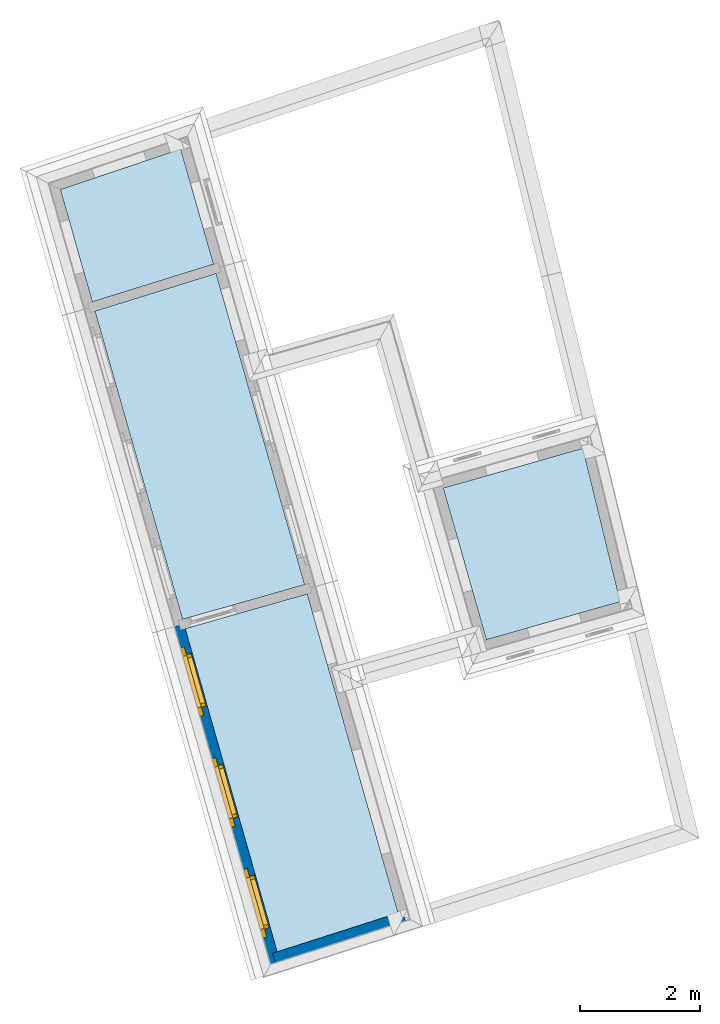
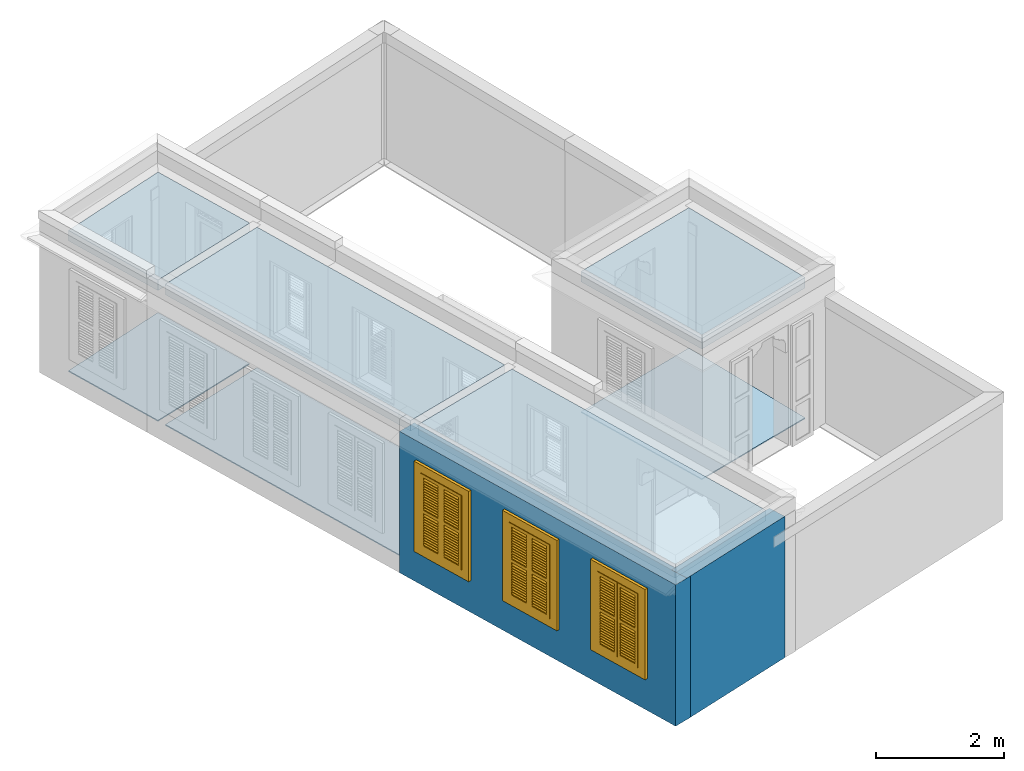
# One storey, part 1 of 13: 7 slabs, 3 windows, 2 walls, 3 openings.
"""IFC4 building model written with IfcOpenShell, lengths in metres."""

from ifc_helpers import new_model, si_unit, frame, origin, origin_with_axes, place, context, subcontext, project, spatial, polyline, outline, extrude, faceted_brep, source, transform, mapped, material, layer, layer_set, layer_usage, type_object, type_shapes, element, fill, save


model = new_model("IFC4")

# Units and contexts
model_context = context("Model", 3, world=origin_with_axes())
body_context = subcontext(model_context, "Body", "Model", "MODEL_VIEW")
ifc_project = project(units=[si_unit("PLANEANGLEUNIT", "RADIAN"), si_unit("MASSUNIT", "GRAM", prefix="KILO"), si_unit("FORCEUNIT", "NEWTON", prefix="KILO"), si_unit("LENGTHUNIT", "METRE"), si_unit("AREAUNIT", "SQUARE_METRE"), si_unit("VOLUMEUNIT", "CUBIC_METRE")], contexts=[model_context, model_context])

# Site, building, storey
site_placement = place(None, origin_with_axes())
site = spatial("IfcSite", under=ifc_project, at=site_placement, Name="Site plot-3", CompositionType="ELEMENT")
building_placement = place(None, origin_with_axes())
building = spatial("IfcBuilding", under=site, at=building_placement, Name="Building plot-3", CompositionType="ELEMENT")
storey_placement = place(None, frame((0.0, 0.0, 3.3), z_axis=(0.0, 0.0, 1.0), x_axis=(1.0, 0.0, 0.0)))
storey = spatial("IfcBuildingStorey", under=building, at=storey_placement, Name="plot-3 1", CompositionType="ELEMENT", Elevation=3.3)

# Slabs
slab_1_placement = place(storey_placement, frame((13.3471508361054, 23.01554423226, 2.5)))
element("IfcSlab", 1, at=slab_1_placement, inside=storey, Name="My Slab", ObjectType="Slab", PredefinedType="FLOOR", context=body_context, shape_type="SweptSolid", body=[
    extrude(outline(polyline([(0.0, 0.0), (0.719861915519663, -2.53061600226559), (2.95270921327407, -1.89545771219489), (2.32973398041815, 0.662718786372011), (0.0, 0.0)])), origin_with_axes(), (0.0, 0.0, 1.0), 0.2),
])
slab_2_placement = place(storey_placement, frame((13.3471508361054, 23.01554423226, 0.0)))
element("IfcSlab", 2, at=slab_2_placement, inside=storey, Name="My Slab", ObjectType="Slab", PredefinedType="FLOOR", context=body_context, shape_type="SweptSolid", body=[
    extrude(outline(polyline([(0.0, 0.0), (0.719861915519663, -2.53061600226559), (2.95270921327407, -1.89545771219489), (2.32973398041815, 0.662718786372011), (0.0, 0.0)])), origin_with_axes(), (0.0, 0.0, 1.0), 0.02),
])
slab_3_placement = place(storey_placement, frame((11.0807647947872, 21.2501145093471, 2.5)))
element("IfcSlab", 3, at=slab_3_placement, inside=storey, Name="My Slab", ObjectType="Slab", PredefinedType="FLOOR", context=body_context, shape_type="SweptSolid", body=[
    extrude(outline(polyline([(0.0, 0.0), (-2.03603314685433, -0.579172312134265), (-0.502932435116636, -5.96866314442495), (1.51385893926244, -5.32184794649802), (0.0, 0.0)])), origin_with_axes(), (0.0, 0.0, 1.0), 0.2),
])
slab_4_placement = place(storey_placement, frame((11.0369877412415, 21.4040091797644, 2.5)))
element("IfcSlab", 4, at=slab_4_placement, inside=storey, Name="My Slab", ObjectType="Slab", PredefinedType="FLOOR", context=body_context, shape_type="SweptSolid", body=[
    extrude(outline(polyline([(0.0, 0.0), (-1.47663815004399, 5.19100128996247), (-3.49840877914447, 4.56169025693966), (-2.03603314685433, -0.579172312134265), (0.0, 0.0)])), origin_with_axes(), (0.0, 0.0, 1.0), 0.2),
])
slab_5_placement = place(storey_placement, frame((11.0369877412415, 21.4040091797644, 0.0)))
element("IfcSlab", 5, at=slab_5_placement, inside=storey, Name="My Slab", ObjectType="Slab", PredefinedType="FLOOR", context=body_context, shape_type="SweptSolid", body=[
    extrude(outline(polyline([(0.0, 0.0), (-1.47663815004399, 5.19100128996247), (-3.49840877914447, 4.56169025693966), (-2.03603314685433, -0.579172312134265), (0.0, 0.0)])), origin_with_axes(), (0.0, 0.0, 1.0), 0.02),
])
slab_6_placement = place(storey_placement, frame((9.51655926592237, 26.7489517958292, 2.5)))
element("IfcSlab", 6, at=slab_6_placement, inside=storey, Name="My Slab", ObjectType="Slab", PredefinedType="FLOOR", context=body_context, shape_type="SweptSolid", body=[
    extrude(outline(polyline([(0.0, 0.0), (-0.546690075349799, 1.92184448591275), (-2.55488815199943, 1.24482024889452), (-2.02177062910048, -0.629311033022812), (0.0, 0.0)])), origin_with_axes(), (0.0, 0.0, 1.0), 0.2),
])
slab_7_placement = place(storey_placement, frame((9.51655926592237, 26.7489517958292, 0.0)))
element("IfcSlab", 7, at=slab_7_placement, inside=storey, Name="My Slab", ObjectType="Slab", PredefinedType="FLOOR", context=body_context, shape_type="SweptSolid", body=[
    extrude(outline(polyline([(0.0, 0.0), (-0.546690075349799, 1.92184448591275), (-2.55488815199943, 1.24482024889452), (-2.02177062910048, -0.629311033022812), (0.0, 0.0)])), origin_with_axes(), (0.0, 0.0, 1.0), 0.02),
])

# Wall, openings, windows
ifc_material_1 = material(Name="Masonry")
ifc_layer_1 = layer(ifc_material_1, 0.33, ventilated=False)
ifc_layer_set_1 = layer_set([ifc_layer_1], Name="exterior_0.08_0.25")
ifc_layer_usage_1 = layer_usage(ifc_layer_set_1, "AXIS2", "POSITIVE", -0.25)
wall_type_1 = type_object("IfcWallType", Name="exterior_0.08_0.25", PredefinedType="SOLIDWALL", material=ifc_layer_set_1)
wall_1_placement = place(storey_placement, frame((8.94589578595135, 20.7260010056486, 0.0), z_axis=(0.0, 0.0, 1.0), x_axis=(0.273606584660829, -0.96184169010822, 0.0)))
wall_1 = element("IfcWall", 8, at=wall_1_placement, inside=storey, type_object=wall_type_1, material=ifc_layer_usage_1, Name="exterior", context=body_context, shape_type="SweptSolid", body=[
    extrude(outline(polyline([(4.48987797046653e-16, 0.0800000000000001), (-9.34102674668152e-16, -0.25), (6.01600538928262, -0.250000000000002), (6.01600538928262, 0.0799999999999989), (4.48987797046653e-16, 0.0800000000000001)])), origin_with_axes(), (0.0, 0.0, 1.0), 2.7),
])
opening_1_placement = place(wall_1_placement, frame((0.506000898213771, 0.0, 0.75)))
opening_1 = element("IfcOpeningElement", 9, at=opening_1_placement, cuts=wall_1, Name="My Opening", ObjectType="Opening", context=body_context, shape_type="SweptSolid", body=[
    extrude(outline(polyline([(0.0, -0.270000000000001), (0.909999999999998, -0.269999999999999), (0.909999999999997, 1.1), (-3.33066907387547e-16, 1.1), (0.0, -0.270000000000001)])), origin_with_axes(), (0.0, 0.0, 1.0), 1.445),
])
opening_2_placement = place(wall_1_placement, frame((2.42800269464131, 0.0, 0.75)))
opening_2 = element("IfcOpeningElement", 10, at=opening_2_placement, cuts=wall_1, Name="My Opening", ObjectType="Opening", context=body_context, shape_type="SweptSolid", body=[
    extrude(outline(polyline([(0.0, -0.270000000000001), (0.910000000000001, -0.270000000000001), (0.91, 1.1), (-4.44089209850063e-16, 1.1), (0.0, -0.270000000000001)])), origin_with_axes(), (0.0, 0.0, 1.0), 1.445),
])
opening_3_placement = place(wall_1_placement, frame((4.35000449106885, 0.0, 0.75)))
opening_3 = element("IfcOpeningElement", 11, at=opening_3_placement, cuts=wall_1, Name="My Opening", ObjectType="Opening", context=body_context, shape_type="SweptSolid", body=[
    extrude(outline(polyline([(0.0, -0.270000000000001), (0.910000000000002, -0.270000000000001), (0.91, 1.1), (0.0, 1.1), (0.0, -0.270000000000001)])), origin_with_axes(), (0.0, 0.0, 1.0), 1.445),
])
window_type = type_object("IfcWindowType", Name="shuttered_shorter", PartitioningType="DOUBLE_PANEL_HORIZONTAL", PredefinedType="NOTDEFINED")
shared_shape = source(origin(), body_context, "Body", "Brep", [
    faceted_brep([(0.393, 0.0, 0.622), (0.074, 0.0, 0.622), (0.074, 0.0, 0.632), (0.393, 0.0, 0.632), (0.074, -0.04, 0.592), (0.393, -0.04, 0.592), (0.393, -0.04, 0.582), (0.074, -0.04, 0.582), (0.517, 0.0, 0.682), (0.836, 0.0, 0.682), (0.836, 0.0, 0.672), (0.517, 0.0, 0.672), (0.517, -0.04, 0.642), (0.836, -0.04, 0.642), (0.836, -0.04, 0.632), (0.517, -0.04, 0.632), (0.517, 0.0, 0.632), (0.836, 0.0, 0.632), (0.836, 0.0, 0.622), (0.517, 0.0, 0.622), (0.517, -0.04, 0.592), (0.836, -0.04, 0.592), (0.836, -0.04, 0.582), (0.517, -0.04, 0.582), (0.517, 0.0, 0.232), (0.836, 0.0, 0.232), (0.836, 0.0, 0.222), (0.517, 0.0, 0.222), (0.517, -0.04, 0.192), (0.836, -0.04, 0.192), (0.836, -0.04, 0.182), (0.517, -0.04, 0.182), (0.517, 0.0, 0.532), (0.836, 0.0, 0.532), (0.836, 0.0, 0.522), (0.517, 0.0, 0.522), (0.517, -0.04, 0.492), (0.836, -0.04, 0.492), (0.836, -0.04, 0.482), (0.517, -0.04, 0.482), (0.517, 0.0, 0.482), (0.836, 0.0, 0.482), (0.836, 0.0, 0.472), (0.517, 0.0, 0.472), (0.517, -0.04, 0.442), (0.836, -0.04, 0.442), (0.836, -0.04, 0.432), (0.517, -0.04, 0.432), (0.517, 0.0, 0.582), (0.836, 0.0, 0.582), (0.836, 0.0, 0.572), (0.517, 0.0, 0.572), (0.517, -0.04, 0.542), (0.836, -0.04, 0.542), (0.836, -0.04, 0.532), (0.517, -0.04, 0.532), (0.517, 0.0, 0.182), (0.836, 0.0, 0.182), (0.836, 0.0, 0.172), (0.517, 0.0, 0.172), (0.517, -0.04, 0.142), (0.836, -0.04, 0.142), (0.836, -0.04, 0.132), (0.517, -0.04, 0.132), (0.517, 0.0, 0.382), (0.836, 0.0, 0.382), (0.836, 0.0, 0.372), (0.517, 0.0, 0.372), (0.517, -0.04, 0.342), (0.836, -0.04, 0.342), (0.836, -0.04, 0.332), (0.517, -0.04, 0.332), (0.517, 0.0, 0.432), (0.836, 0.0, 0.432), (0.836, 0.0, 0.422), (0.517, 0.0, 0.422), (0.517, -0.04, 0.392), (0.836, -0.04, 0.392), (0.836, -0.04, 0.382), (0.517, -0.04, 0.382), (0.517, 0.0, 0.132), (0.836, 0.0, 0.132), (0.836, 0.0, 0.122), (0.517, 0.0, 0.122), (0.517, -0.04, 0.092), (0.836, -0.04, 0.092), (0.836, -0.04, 0.082), (0.517, -0.04, 0.082), (0.517, 0.0, 0.282), (0.836, 0.0, 0.282), (0.836, 0.0, 0.272), (0.517, 0.0, 0.272), (0.517, -0.04, 0.242), (0.836, -0.04, 0.242), (0.836, -0.04, 0.232), (0.517, -0.04, 0.232), (0.517, 0.0, 0.332), (0.836, 0.0, 0.332), (0.836, 0.0, 0.322), (0.517, 0.0, 0.322), (0.517, -0.04, 0.292), (0.836, -0.04, 0.292), (0.836, -0.04, 0.282), (0.517, -0.04, 0.282), (0.517, 0.0, 1.362667), (0.836, 0.0, 1.362667), (0.836, 0.0, 1.352667), (0.517, 0.0, 1.352667), (0.517, -0.04, 1.322667), (0.836, -0.04, 1.322667), (0.836, -0.04, 1.312667), (0.517, -0.04, 1.312667), (0.517, 0.0, 1.312667), (0.836, 0.0, 1.312667), (0.836, 0.0, 1.302667), (0.517, 0.0, 1.302667), (0.517, -0.04, 1.272667), (0.836, -0.04, 1.272667), (0.836, -0.04, 1.262667), (0.517, -0.04, 1.262667), (0.517, 0.0, 0.912667), (0.836, 0.0, 0.912667), (0.836, 0.0, 0.902667), (0.517, 0.0, 0.902667), (0.517, -0.04, 0.872667), (0.836, -0.04, 0.872667), (0.836, -0.04, 0.862667), (0.517, -0.04, 0.862667), (0.517, 0.0, 1.212667), (0.836, 0.0, 1.212667), (0.836, 0.0, 1.202667), (0.517, 0.0, 1.202667), (0.517, -0.04, 1.172667), (0.836, -0.04, 1.172667), (0.836, -0.04, 1.162667), (0.517, -0.04, 1.162667), (0.517, 0.0, 1.162667), (0.836, 0.0, 1.162667), (0.836, 0.0, 1.152667), (0.517, 0.0, 1.152667), (0.517, -0.04, 1.122667), (0.836, -0.04, 1.122667), (0.836, -0.04, 1.112667), (0.517, -0.04, 1.112667), (0.517, 0.0, 1.262667), (0.836, 0.0, 1.262667), (0.836, 0.0, 1.252667), (0.517, 0.0, 1.252667), (0.517, -0.04, 1.222667), (0.836, -0.04, 1.222667), (0.836, -0.04, 1.212667), (0.517, -0.04, 1.212667), (0.517, 0.0, 0.862667), (0.836, 0.0, 0.862667), (0.836, 0.0, 0.852667), (0.517, 0.0, 0.852667), (0.517, -0.04, 0.822667), (0.836, -0.04, 0.822667), (0.836, -0.04, 0.812667), (0.517, -0.04, 0.812667), (0.517, 0.0, 1.062667), (0.836, 0.0, 1.062667), (0.836, 0.0, 1.052667), (0.517, 0.0, 1.052667), (0.517, -0.04, 1.022667), (0.836, -0.04, 1.022667), (0.836, -0.04, 1.012667), (0.517, -0.04, 1.012667), (0.517, 0.0, 1.112667), (0.836, 0.0, 1.112667), (0.836, 0.0, 1.102667), (0.517, 0.0, 1.102667), (0.517, -0.04, 1.072667), (0.836, -0.04, 1.072667), (0.836, -0.04, 1.062667), (0.517, -0.04, 1.062667), (0.517, 0.0, 0.812667), (0.836, 0.0, 0.812667), (0.836, 0.0, 0.802667), (0.517, 0.0, 0.802667), (0.517, -0.04, 0.772667), (0.836, -0.04, 0.772667), (0.836, -0.04, 0.762667), (0.517, -0.04, 0.762667), (0.517, 0.0, 0.962667), (0.836, 0.0, 0.962667), (0.836, 0.0, 0.952667), (0.517, 0.0, 0.952667), (0.517, -0.04, 0.922667), (0.836, -0.04, 0.922667), (0.836, -0.04, 0.912667), (0.517, -0.04, 0.912667), (0.517, 0.0, 1.012667), (0.836, 0.0, 1.012667), (0.836, 0.0, 1.002667), (0.517, 0.0, 1.002667), (0.517, -0.04, 0.972667), (0.836, -0.04, 0.972667), (0.836, -0.04, 0.962667), (0.517, -0.04, 0.962667), (0.074, 0.0, 0.682), (0.393, 0.0, 0.682), (0.393, 0.0, 0.672), (0.074, 0.0, 0.672), (0.074, -0.04, 0.642), (0.393, -0.04, 0.642), (0.393, -0.04, 0.632), (0.074, -0.04, 0.632), (0.074, 0.0, 0.232), (0.393, 0.0, 0.232), (0.393, 0.0, 0.222), (0.074, 0.0, 0.222), (0.074, -0.04, 0.192), (0.393, -0.04, 0.192), (0.393, -0.04, 0.182), (0.074, -0.04, 0.182), (0.074, 0.0, 0.532), (0.393, 0.0, 0.532), (0.393, 0.0, 0.522), (0.074, 0.0, 0.522), (0.074, -0.04, 0.492), (0.393, -0.04, 0.492), (0.393, -0.04, 0.482), (0.074, -0.04, 0.482), (0.074, 0.0, 0.482), (0.393, 0.0, 0.482), (0.393, 0.0, 0.472), (0.074, 0.0, 0.472), (0.074, -0.04, 0.442), (0.393, -0.04, 0.442), (0.393, -0.04, 0.432), (0.074, -0.04, 0.432), (0.074, 0.0, 0.582), (0.393, 0.0, 0.582), (0.393, 0.0, 0.572), (0.074, 0.0, 0.572), (0.074, -0.04, 0.542), (0.393, -0.04, 0.542), (0.393, -0.04, 0.532), (0.074, -0.04, 0.532), (0.074, 0.0, 0.182), (0.393, 0.0, 0.182), (0.393, 0.0, 0.172), (0.074, 0.0, 0.172), (0.074, -0.04, 0.142), (0.393, -0.04, 0.142), (0.393, -0.04, 0.132), (0.074, -0.04, 0.132), (0.074, 0.0, 0.382), (0.393, 0.0, 0.382), (0.393, 0.0, 0.372), (0.074, 0.0, 0.372), (0.074, -0.04, 0.342), (0.393, -0.04, 0.342), (0.393, -0.04, 0.332), (0.074, -0.04, 0.332), (0.074, 0.0, 0.432), (0.393, 0.0, 0.432), (0.393, 0.0, 0.422), (0.074, 0.0, 0.422), (0.074, -0.04, 0.392), (0.393, -0.04, 0.392), (0.393, -0.04, 0.382), (0.074, -0.04, 0.382), (0.074, 0.0, 0.132), (0.393, 0.0, 0.132), (0.393, 0.0, 0.122), (0.074, 0.0, 0.122), (0.074, -0.04, 0.092), (0.393, -0.04, 0.092), (0.393, -0.04, 0.082), (0.074, -0.04, 0.082), (0.074, 0.0, 0.282), (0.393, 0.0, 0.282), (0.393, 0.0, 0.272), (0.074, 0.0, 0.272), (0.074, -0.04, 0.242), (0.393, -0.04, 0.242), (0.393, -0.04, 0.232), (0.074, -0.04, 0.232), (0.074, 0.0, 0.332), (0.393, 0.0, 0.332), (0.393, 0.0, 0.322), (0.074, 0.0, 0.322), (0.074, -0.04, 0.292), (0.393, -0.04, 0.292), (0.393, -0.04, 0.282), (0.074, -0.04, 0.282), (0.074, 0.0, 1.362667), (0.393, 0.0, 1.362667), (0.393, 0.0, 1.352667), (0.074, 0.0, 1.352667), (0.074, -0.04, 1.322667), (0.393, -0.04, 1.322667), (0.393, -0.04, 1.312667), (0.074, -0.04, 1.312667), (0.074, 0.0, 1.312667), (0.393, 0.0, 1.312667), (0.393, 0.0, 1.302667), (0.074, 0.0, 1.302667), (0.074, -0.04, 1.272667), (0.393, -0.04, 1.272667), (0.393, -0.04, 1.262667), (0.074, -0.04, 1.262667), (0.074, 0.0, 0.912667), (0.393, 0.0, 0.912667), (0.393, 0.0, 0.902667), (0.074, 0.0, 0.902667), (0.074, -0.04, 0.872667), (0.393, -0.04, 0.872667), (0.393, -0.04, 0.862667), (0.074, -0.04, 0.862667), (0.074, 0.0, 1.212667), (0.393, 0.0, 1.212667), (0.393, 0.0, 1.202667), (0.074, 0.0, 1.202667), (0.074, -0.04, 1.172667), (0.393, -0.04, 1.172667), (0.393, -0.04, 1.162667), (0.074, -0.04, 1.162667), (0.074, 0.0, 1.162667), (0.393, 0.0, 1.162667), (0.393, 0.0, 1.152667), (0.074, 0.0, 1.152667), (0.074, -0.04, 1.122667), (0.393, -0.04, 1.122667), (0.393, -0.04, 1.112667), (0.074, -0.04, 1.112667), (0.074, 0.0, 1.262667), (0.393, 0.0, 1.262667), (0.393, 0.0, 1.252667), (0.074, 0.0, 1.252667), (0.074, -0.04, 1.222667), (0.393, -0.04, 1.222667), (0.393, -0.04, 1.212667), (0.074, -0.04, 1.212667), (0.074, 0.0, 0.862667), (0.393, 0.0, 0.862667), (0.393, 0.0, 0.852667), (0.074, 0.0, 0.852667), (0.074, -0.04, 0.822667), (0.393, -0.04, 0.822667), (0.393, -0.04, 0.812667), (0.074, -0.04, 0.812667), (0.074, 0.0, 1.062667), (0.393, 0.0, 1.062667), (0.393, 0.0, 1.052667), (0.074, 0.0, 1.052667), (0.074, -0.04, 1.022667), (0.393, -0.04, 1.022667), (0.393, -0.04, 1.012667), (0.074, -0.04, 1.012667), (0.074, 0.0, 1.112667), (0.393, 0.0, 1.112667), (0.393, 0.0, 1.102667), (0.074, 0.0, 1.102667), (0.074, -0.04, 1.072667), (0.393, -0.04, 1.072667), (0.393, -0.04, 1.062667), (0.074, -0.04, 1.062667), (0.074, 0.0, 0.812667), (0.393, 0.0, 0.812667), (0.393, 0.0, 0.802667), (0.074, 0.0, 0.802667), (0.074, -0.04, 0.772667), (0.393, -0.04, 0.772667), (0.393, -0.04, 0.762667), (0.074, -0.04, 0.762667), (0.074, 0.0, 0.962667), (0.393, 0.0, 0.962667), (0.393, 0.0, 0.952667), (0.074, 0.0, 0.952667), (0.074, -0.04, 0.922667), (0.393, -0.04, 0.922667), (0.393, -0.04, 0.912667), (0.074, -0.04, 0.912667), (0.074, 0.0, 1.012667), (0.393, 0.0, 1.012667), (0.393, 0.0, 1.002667), (0.074, 0.0, 1.002667), (0.074, -0.04, 0.972667), (0.393, -0.04, 0.972667), (0.393, -0.04, 0.962667), (0.074, -0.04, 0.962667), (0.517, -0.04, 0.072), (0.457, -0.04, 0.012), (0.896, -0.04, 0.012), (0.836, -0.04, 0.072), (0.457, -0.04, 0.692667), (0.517, -0.04, 0.692667), (0.457, 0.0, 0.012), (0.896, 0.0, 0.012), (0.836, -0.04, 0.692667), (0.896, -0.04, 0.692667), (0.836, 0.0, 0.072), (0.517, 0.0, 0.072), (0.457, 0.0, 0.692667), (0.517, 0.0, 0.692667), (0.517, -0.04, 0.752666), (0.457, -0.04, 0.752666), (0.896, 0.0, 0.692667), (0.836, 0.0, 0.692667), (0.836, -0.04, 0.752666), (0.896, -0.04, 0.752666), (0.457, 0.0, 0.752666), (0.457, -0.04, 1.433333), (0.517, -0.04, 1.373333), (0.896, 0.0, 0.752666), (0.836, -0.04, 1.373333), (0.896, -0.04, 1.433333), (0.457, 0.0, 1.433333), (0.517, 0.0, 0.752666), (0.836, 0.0, 0.752666), (0.517, 0.0, 1.373333), (0.896, 0.0, 1.433333), (0.836, 0.0, 1.373333), (0.074, -0.04, 0.072), (0.014, -0.04, 0.012), (0.453, -0.04, 0.012), (0.393, -0.04, 0.072), (0.014, -0.04, 0.692667), (0.074, -0.04, 0.692667), (0.014, 0.0, 0.012), (0.453, 0.0, 0.012), (0.393, -0.04, 0.692667), (0.453, -0.04, 0.692667), (0.393, 0.0, 0.072), (0.074, 0.0, 0.072), (0.014, 0.0, 0.692667), (0.074, 0.0, 0.692667), (0.074, -0.04, 0.752666), (0.014, -0.04, 0.752666), (0.453, 0.0, 0.692667), (0.393, 0.0, 0.692667), (0.393, -0.04, 0.752666), (0.453, -0.04, 0.752666), (0.014, 0.0, 0.752666), (0.014, -0.04, 1.433333), (0.074, -0.04, 1.373333), (0.453, 0.0, 0.752666), (0.393, -0.04, 1.373333), (0.453, -0.04, 1.433333), (0.014, 0.0, 1.433333), (0.074, 0.0, 0.752666), (0.393, 0.0, 0.752666), (0.074, 0.0, 1.373333), (0.453, 0.0, 1.433333), (0.393, 0.0, 1.373333), (0.0, 0.33, 1.445), (0.91, 0.33, 1.445), (0.85, 0.33, 1.385), (0.06, 0.33, 1.385), (0.91, 0.25, 1.445), (0.0, 0.25, 1.445), (0.91, 0.25, 1.445), (0.85, 0.33, 0.06), (0.91, 0.33, 0.0), (0.85, 0.25, 1.385), (0.06, 0.25, 1.385), (0.0, 0.33, 0.0), (0.06, 0.33, 0.06), (0.0, 0.25, 0.0), (0.91, 0.25, 0.0), (0.85, 0.25, 0.06), (0.06, 0.25, 0.06), (1.05, 0.25, 1.585), (-0.14, 0.25, 1.585), (-0.14, -0.03, 1.585), (1.05, -0.03, 1.585), (0.9, -0.03, 1.435), (0.01, -0.03, 1.435), (0.01, 0.25, 1.435), (0.9, 0.25, 1.435), (0.9, 0.25, 0.01), (0.9, -0.03, 0.01), (1.05, -0.03, -0.14), (1.05, 0.25, -0.14), (0.01, -0.03, 0.01), (0.01, 0.25, 0.01), (-0.14, -0.03, -0.14), (-0.14, 0.25, -0.14)], [[[0, 1, 2, 3]], [[4, 5, 3, 2]], [[5, 6, 0, 3]], [[1, 0, 6, 7]], [[2, 1, 7, 4]], [[5, 4, 7, 6]], [[8, 9, 10, 11]], [[12, 13, 9, 8]], [[13, 14, 10, 9]], [[14, 15, 11, 10]], [[15, 12, 8, 11]], [[13, 12, 15, 14]], [[16, 17, 18, 19]], [[20, 21, 17, 16]], [[21, 22, 18, 17]], [[22, 23, 19, 18]], [[23, 20, 16, 19]], [[21, 20, 23, 22]], [[24, 25, 26, 27]], [[28, 29, 25, 24]], [[29, 30, 26, 25]], [[30, 31, 27, 26]], [[31, 28, 24, 27]], [[29, 28, 31, 30]], [[32, 33, 34, 35]], [[36, 37, 33, 32]], [[37, 38, 34, 33]], [[38, 39, 35, 34]], [[39, 36, 32, 35]], [[37, 36, 39, 38]], [[40, 41, 42, 43]], [[44, 45, 41, 40]], [[45, 46, 42, 41]], [[46, 47, 43, 42]], [[47, 44, 40, 43]], [[45, 44, 47, 46]], [[48, 49, 50, 51]], [[52, 53, 49, 48]], [[53, 54, 50, 49]], [[54, 55, 51, 50]], [[55, 52, 48, 51]], [[53, 52, 55, 54]], [[56, 57, 58, 59]], [[60, 61, 57, 56]], [[61, 62, 58, 57]], [[62, 63, 59, 58]], [[63, 60, 56, 59]], [[61, 60, 63, 62]], [[64, 65, 66, 67]], [[68, 69, 65, 64]], [[69, 70, 66, 65]], [[70, 71, 67, 66]], [[71, 68, 64, 67]], [[69, 68, 71, 70]], [[72, 73, 74, 75]], [[76, 77, 73, 72]], [[77, 78, 74, 73]], [[78, 79, 75, 74]], [[79, 76, 72, 75]], [[77, 76, 79, 78]], [[80, 81, 82, 83]], [[84, 85, 81, 80]], [[85, 86, 82, 81]], [[86, 87, 83, 82]], [[87, 84, 80, 83]], [[85, 84, 87, 86]], [[88, 89, 90, 91]], [[92, 93, 89, 88]], [[93, 94, 90, 89]], [[94, 95, 91, 90]], [[95, 92, 88, 91]], [[93, 92, 95, 94]], [[96, 97, 98, 99]], [[100, 101, 97, 96]], [[101, 102, 98, 97]], [[102, 103, 99, 98]], [[103, 100, 96, 99]], [[101, 100, 103, 102]], [[104, 105, 106, 107]], [[108, 109, 105, 104]], [[109, 110, 106, 105]], [[110, 111, 107, 106]], [[111, 108, 104, 107]], [[109, 108, 111, 110]], [[112, 113, 114, 115]], [[116, 117, 113, 112]], [[117, 118, 114, 113]], [[118, 119, 115, 114]], [[119, 116, 112, 115]], [[117, 116, 119, 118]], [[120, 121, 122, 123]], [[124, 125, 121, 120]], [[125, 126, 122, 121]], [[126, 127, 123, 122]], [[127, 124, 120, 123]], [[125, 124, 127, 126]], [[128, 129, 130, 131]], [[132, 133, 129, 128]], [[133, 134, 130, 129]], [[134, 135, 131, 130]], [[135, 132, 128, 131]], [[133, 132, 135, 134]], [[136, 137, 138, 139]], [[140, 141, 137, 136]], [[141, 142, 138, 137]], [[142, 143, 139, 138]], [[139, 143, 140, 136]], [[141, 140, 143, 142]], [[144, 145, 146, 147]], [[148, 149, 145, 144]], [[149, 150, 146, 145]], [[150, 151, 147, 146]], [[151, 148, 144, 147]], [[149, 148, 151, 150]], [[152, 153, 154, 155]], [[156, 157, 153, 152]], [[157, 158, 154, 153]], [[158, 159, 155, 154]], [[159, 156, 152, 155]], [[157, 156, 159, 158]], [[160, 161, 162, 163]], [[164, 165, 161, 160]], [[165, 166, 162, 161]], [[166, 167, 163, 162]], [[167, 164, 160, 163]], [[165, 164, 167, 166]], [[168, 169, 170, 171]], [[172, 173, 169, 168]], [[173, 174, 170, 169]], [[174, 175, 171, 170]], [[175, 172, 168, 171]], [[173, 172, 175, 174]], [[176, 177, 178, 179]], [[180, 181, 177, 176]], [[181, 182, 178, 177]], [[182, 183, 179, 178]], [[183, 180, 176, 179]], [[181, 180, 183, 182]], [[184, 185, 186, 187]], [[188, 189, 185, 184]], [[189, 190, 186, 185]], [[190, 191, 187, 186]], [[191, 188, 184, 187]], [[189, 188, 191, 190]], [[192, 193, 194, 195]], [[196, 197, 193, 192]], [[197, 198, 194, 193]], [[198, 199, 195, 194]], [[199, 196, 192, 195]], [[197, 196, 199, 198]], [[200, 201, 202, 203]], [[204, 205, 201, 200]], [[205, 206, 202, 201]], [[206, 207, 203, 202]], [[207, 204, 200, 203]], [[205, 204, 207, 206]], [[208, 209, 210, 211]], [[212, 213, 209, 208]], [[213, 214, 210, 209]], [[214, 215, 211, 210]], [[215, 212, 208, 211]], [[213, 212, 215, 214]], [[216, 217, 218, 219]], [[220, 221, 217, 216]], [[221, 222, 218, 217]], [[222, 223, 219, 218]], [[223, 220, 216, 219]], [[221, 220, 223, 222]], [[224, 225, 226, 227]], [[228, 229, 225, 224]], [[229, 230, 226, 225]], [[230, 231, 227, 226]], [[231, 228, 224, 227]], [[229, 228, 231, 230]], [[232, 233, 234, 235]], [[236, 237, 233, 232]], [[237, 238, 234, 233]], [[238, 239, 235, 234]], [[239, 236, 232, 235]], [[237, 236, 239, 238]], [[240, 241, 242, 243]], [[244, 245, 241, 240]], [[245, 246, 242, 241]], [[246, 247, 243, 242]], [[247, 244, 240, 243]], [[245, 244, 247, 246]], [[248, 249, 250, 251]], [[252, 253, 249, 248]], [[253, 254, 250, 249]], [[254, 255, 251, 250]], [[255, 252, 248, 251]], [[253, 252, 255, 254]], [[256, 257, 258, 259]], [[260, 261, 257, 256]], [[261, 262, 258, 257]], [[262, 263, 259, 258]], [[263, 260, 256, 259]], [[261, 260, 263, 262]], [[264, 265, 266, 267]], [[268, 269, 265, 264]], [[269, 270, 266, 265]], [[270, 271, 267, 266]], [[271, 268, 264, 267]], [[269, 268, 271, 270]], [[272, 273, 274, 275]], [[276, 277, 273, 272]], [[277, 278, 274, 273]], [[278, 279, 275, 274]], [[279, 276, 272, 275]], [[277, 276, 279, 278]], [[280, 281, 282, 283]], [[284, 285, 281, 280]], [[285, 286, 282, 281]], [[286, 287, 283, 282]], [[287, 284, 280, 283]], [[285, 284, 287, 286]], [[288, 289, 290, 291]], [[292, 293, 289, 288]], [[293, 294, 290, 289]], [[294, 295, 291, 290]], [[295, 292, 288, 291]], [[293, 292, 295, 294]], [[296, 297, 298, 299]], [[300, 301, 297, 296]], [[301, 302, 298, 297]], [[302, 303, 299, 298]], [[303, 300, 296, 299]], [[301, 300, 303, 302]], [[304, 305, 306, 307]], [[308, 309, 305, 304]], [[309, 310, 306, 305]], [[310, 311, 307, 306]], [[311, 308, 304, 307]], [[309, 308, 311, 310]], [[312, 313, 314, 315]], [[316, 317, 313, 312]], [[317, 318, 314, 313]], [[318, 319, 315, 314]], [[319, 316, 312, 315]], [[317, 316, 319, 318]], [[320, 321, 322, 323]], [[324, 325, 321, 320]], [[325, 326, 322, 321]], [[326, 327, 323, 322]], [[327, 324, 320, 323]], [[325, 324, 327, 326]], [[328, 329, 330, 331]], [[332, 333, 329, 328]], [[333, 334, 330, 329]], [[334, 335, 331, 330]], [[335, 332, 328, 331]], [[333, 332, 335, 334]], [[336, 337, 338, 339]], [[340, 341, 337, 336]], [[341, 342, 338, 337]], [[342, 343, 339, 338]], [[343, 340, 336, 339]], [[341, 340, 343, 342]], [[344, 345, 346, 347]], [[348, 349, 345, 344]], [[349, 350, 346, 345]], [[350, 351, 347, 346]], [[351, 348, 344, 347]], [[349, 348, 351, 350]], [[352, 353, 354, 355]], [[356, 357, 353, 352]], [[357, 358, 354, 353]], [[358, 359, 355, 354]], [[359, 356, 352, 355]], [[357, 356, 359, 358]], [[360, 361, 362, 363]], [[364, 365, 361, 360]], [[365, 366, 362, 361]], [[366, 367, 363, 362]], [[367, 364, 360, 363]], [[365, 364, 367, 366]], [[368, 369, 370, 371]], [[372, 373, 369, 368]], [[373, 374, 370, 369]], [[374, 375, 371, 370]], [[375, 372, 368, 371]], [[373, 372, 375, 374]], [[376, 377, 378, 379]], [[380, 381, 377, 376]], [[381, 382, 378, 377]], [[382, 383, 379, 378]], [[383, 380, 376, 379]], [[381, 380, 383, 382]], [[384, 385, 386, 387]], [[388, 385, 384, 389]], [[390, 391, 386, 385]], [[392, 387, 386, 393]], [[384, 387, 394, 395]], [[390, 385, 388, 396]], [[389, 384, 395, 397]], [[389, 398, 399, 388]], [[390, 395, 394, 391]], [[400, 393, 386, 391]], [[387, 392, 401, 394]], [[402, 392, 393, 403]], [[396, 388, 399, 404]], [[390, 396, 397, 395]], [[392, 389, 397, 401]], [[398, 389, 392, 402]], [[405, 399, 398, 406]], [[394, 401, 400, 391]], [[407, 403, 393, 400]], [[408, 402, 403, 409]], [[404, 399, 405, 410]], [[411, 397, 396, 404]], [[397, 411, 412, 401]], [[398, 402, 412, 411]], [[406, 398, 411, 413]], [[405, 406, 408, 409]], [[401, 412, 407, 400]], [[414, 409, 403, 407]], [[402, 408, 415, 412]], [[405, 409, 414, 410]], [[404, 410, 413, 411]], [[408, 406, 413, 415]], [[412, 415, 414, 407]], [[413, 410, 414, 415]], [[416, 417, 418, 419]], [[420, 417, 416, 421]], [[422, 423, 418, 417]], [[424, 419, 418, 425]], [[416, 419, 426, 427]], [[422, 417, 420, 428]], [[421, 416, 427, 429]], [[421, 430, 431, 420]], [[422, 427, 426, 423]], [[432, 425, 418, 423]], [[419, 424, 433, 426]], [[434, 424, 425, 435]], [[428, 420, 431, 436]], [[422, 428, 429, 427]], [[424, 421, 429, 433]], [[430, 421, 424, 434]], [[437, 431, 430, 438]], [[426, 433, 432, 423]], [[439, 435, 425, 432]], [[440, 434, 435, 441]], [[436, 431, 437, 442]], [[443, 429, 428, 436]], [[429, 443, 444, 433]], [[430, 434, 444, 443]], [[438, 430, 443, 445]], [[437, 438, 440, 441]], [[433, 444, 439, 432]], [[446, 441, 435, 439]], [[434, 440, 447, 444]], [[437, 441, 446, 442]], [[436, 442, 445, 443]], [[440, 438, 445, 447]], [[444, 447, 446, 439]], [[445, 442, 446, 447]], [[448, 449, 450, 451]], [[452, 449, 448]], [[448, 453, 454]], [[448, 454, 452]], [[455, 450, 449, 456]], [[451, 450, 457, 458]], [[459, 448, 451, 460]], [[448, 459, 461, 453]], [[454, 453, 458, 457]], [[462, 452, 454]], [[454, 457, 463]], [[454, 463, 462]], [[456, 449, 452, 462]], [[450, 455, 463, 457]], [[456, 459, 460, 455]], [[460, 451, 458, 464]], [[459, 456, 462, 461]], [[464, 458, 453, 461]], [[461, 462, 463, 464]], [[455, 460, 464, 463]], [[465, 466, 467, 468]], [[469, 470, 471, 472]], [[473, 474, 469, 472]], [[465, 468, 475, 476]], [[470, 477, 478, 471]], [[474, 473, 478, 477]], [[474, 477, 479, 475]], [[470, 467, 479, 477]], [[470, 469, 468, 467]], [[474, 475, 468, 469]], [[471, 478, 480, 466]], [[473, 472, 465, 476]], [[473, 476, 480, 478]], [[466, 465, 472, 471]], [[480, 476, 475, 479]], [[480, 479, 467, 466]]]),
])
type_shapes(window_type, [shared_shape])
window_1_placement = place(storey_placement, frame((8.82464370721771, 20.165434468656, 0.75), z_axis=(0.0, 0.0, 1.0), x_axis=(0.248981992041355, -0.875275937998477, 0.0)))
window_1 = element("IfcWindow", 12, at=window_1_placement, inside=storey, type_object=window_type, Name="circulation outside window", OverallHeight=1.445, OverallWidth=0.91, context=body_context, shape_type="MappedRepresentation", body=[
    mapped(shared_shape, transform((0.0, 0.0, 0.0), scale=1.0)),
])
fill(opening_1, window_1)
window_2_placement = place(storey_placement, frame((9.35051605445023, 18.3167730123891, 0.75), z_axis=(0.0, 0.0, 1.0), x_axis=(0.248981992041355, -0.875275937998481, 0.0)))
window_2 = element("IfcWindow", 13, at=window_2_placement, inside=storey, type_object=window_type, Name="circulation outside window", OverallHeight=1.445, OverallWidth=0.91, context=body_context, shape_type="MappedRepresentation", body=[
    mapped(shared_shape, transform((0.0, 0.0, 0.0), scale=1.0)),
])
fill(opening_2, window_2)
window_3_placement = place(storey_placement, frame((9.87638840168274, 16.4681115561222, 0.75), z_axis=(0.0, 0.0, 1.0), x_axis=(0.248981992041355, -0.875275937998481, 0.0)))
window_3 = element("IfcWindow", 14, at=window_3_placement, inside=storey, type_object=window_type, Name="circulation outside window", OverallHeight=1.445, OverallWidth=0.91, context=body_context, shape_type="MappedRepresentation", body=[
    mapped(shared_shape, transform((0.0, 0.0, 0.0), scale=1.0)),
])
fill(opening_3, window_3)

# Wall
ifc_material_2 = material(Name="Masonry")
ifc_layer_2 = layer(ifc_material_2, 0.33, ventilated=False)
ifc_layer_set_2 = layer_set([ifc_layer_2], Name="party_0.08_0.25")
ifc_layer_usage_2 = layer_usage(ifc_layer_set_2, "AXIS2", "POSITIVE", -0.25)
wall_type_2 = type_object("IfcWallType", Name="party_0.08_0.25", PredefinedType="SOLIDWALL", material=ifc_layer_set_2)
wall_2_placement = place(storey_placement, frame((10.5235128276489, 15.1800166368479, 0.0), z_axis=(0.0, 0.0, 1.0), x_axis=(0.952226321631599, 0.305393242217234, 0.0)))
element("IfcWall", 15, at=wall_2_placement, inside=storey, type_object=wall_type_2, material=ifc_layer_usage_2, Name="party", context=body_context, shape_type="SweptSolid", body=[
    extrude(outline(polyline([(-2.26027801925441e-16, 0.0799999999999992), (3.48374992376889e-16, -0.25), (2.27806309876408, -0.25), (2.27806309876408, 0.0799999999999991), (-2.26027801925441e-16, 0.0799999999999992)])), origin_with_axes(), (0.0, 0.0, 1.0), 2.7),
])

save(model, "model.ifc")
